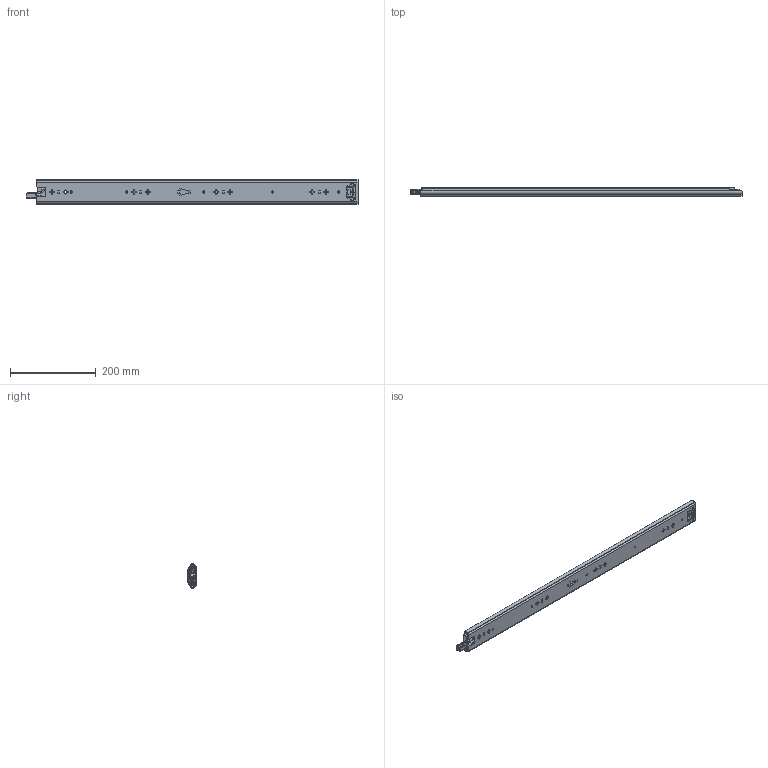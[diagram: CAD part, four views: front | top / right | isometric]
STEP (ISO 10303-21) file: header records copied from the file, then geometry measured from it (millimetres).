
FILE_DESCRIPTION((''),'2;1');
FILE_NAME('KP-57-01ZUZHUANGTU-30_ASM','2023-03-30T',('jishu015'),(''),'PRO/ENGINEER BY PARAMETRIC TECHNOLOGY CORPORATION, 2010280','PRO/ENGINEER BY PARAMETRIC TECHNOLOGY CORPORATION, 2010280','');
FILE_SCHEMA(('CONFIG_CONTROL_DESIGN'));
Products named in the file (22): KP-57-01WEIKE-18___________; 1057WEIJIAO___________; WAIKE__________ASM; KP-57-01ZHONGGUI-18___________; ZHONGGUIPEIJIAN-11_________; ZHONGGUISUOKOU-11_________; KP-57-01ZHONGGUI-18____________ASM; 1057XIAOZHUJIA___________; 1057-5-6GANZHU___________; 1057XIAOZHUJIA-14GE____________ASM; KP-57-01NEIGUI-18___________; PJ-57-08_________; DIAOPIAN-11_________; 50XINSUOKOU-1_________; TANHUANG_________; 1053-3SBANJI122_______; JIAO11_______; KP-57-01NEIGUI-18____________ASM; 1053ZHUTIAO-175_______________; 53-5-6GANZHU_______________; 1053ZHUTIAO-175MM__________ASM; KP-57-01ZUZHUANGTU-30_ASM
Assembly tree (85 placements, depth 3):
  KP-57-01ZUZHUANGTU-30_ASM
    WAIKE__________ASM
      KP-57-01WEIKE-18___________
      1057WEIJIAO___________
    KP-57-01ZHONGGUI-18____________ASM
      KP-57-01ZHONGGUI-18___________
      ZHONGGUIPEIJIAN-11_________
      ZHONGGUISUOKOU-11_________
    1057XIAOZHUJIA-14GE____________ASM
      1057XIAOZHUJIA___________
      1057-5-6GANZHU___________  x52
    KP-57-01NEIGUI-18____________ASM
      KP-57-01NEIGUI-18___________
      PJ-57-08_________
      DIAOPIAN-11_________
      50XINSUOKOU-1_________
      TANHUANG_________
      1053-3SBANJI122_______
      JIAO11_______
    1053ZHUTIAO-175MM__________ASM  x2
      1053ZHUTIAO-175_______________
      53-5-6GANZHU_______________
Bounding box: 775.42 x 19 x 57.67 mm (x, y, z)
Volume: 327180.3 mm3; surface area: 356606.7 mm2
Topology: 97 solids, 97 shells, 2494 faces, 7175 edges, 4486 vertices
Faces by surface type: cylinder 1073, plane 1016, sphere 167, bspline 114, cone 76, torus 25, extrusion 23
Entity records: 80893 total; most frequent: CARTESIAN_POINT 20018, ORIENTED_EDGE 12886, DIRECTION 12530, EDGE_CURVE 6443, AXIS2_PLACEMENT_3D 4333, VERTEX_POINT 4162, VECTOR 3864, LINE 3841
